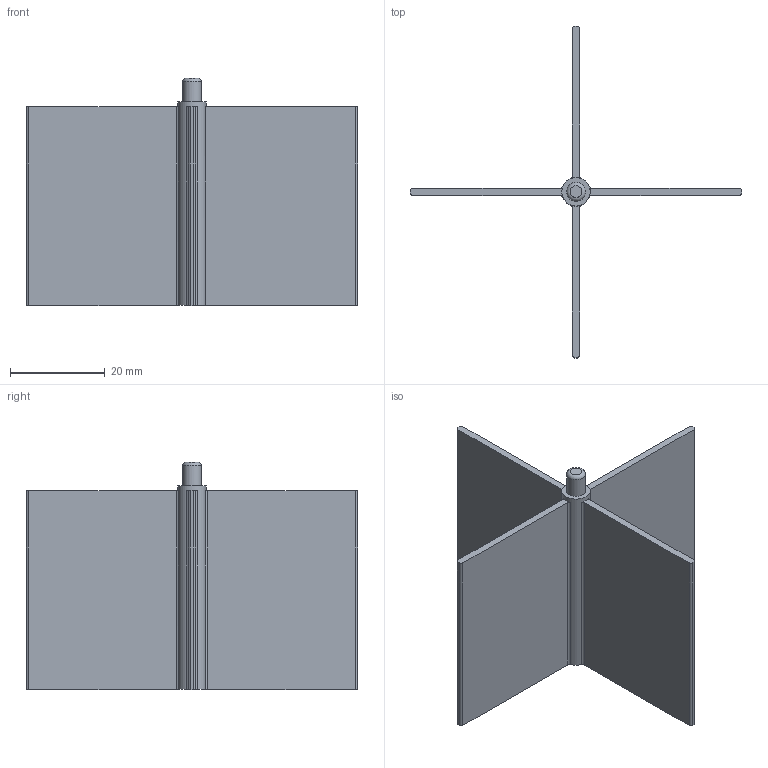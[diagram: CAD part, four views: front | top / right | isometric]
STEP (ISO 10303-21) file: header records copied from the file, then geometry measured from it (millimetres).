
FILE_DESCRIPTION(/* description */ ('STEP AP242','CAx-IF Rec.Pracs.---Representation and Presentation of Product Manufacturing Information (PMI)---4.0---2014-10-13','CAx-IF Rec.Pracs.---3D Tessellated Geometry---0.4---2014-09-14','2;1','CAx-IF Rec.Pracs.---User Defined Attributes---1.5---2016-08-15'),/* implementation_level */ '2;1');
FILE_NAME(/* name */ '69133feb89ea7250a0fac9b0',/* time_stamp */ '2025-11-11T13:53:48Z',/* author */ (''),/* organization */ (''),/* preprocessor_version */ 'ST-DEVELOPER v20',/* originating_system */ 'ONSHAPE BY PTC INC, 1.206',/* authorisation */ ' ');
FILE_SCHEMA (('AP242_MANAGED_MODEL_BASED_3D_ENGINEERING_MIM_LF { 1 0 10303 442 1 1 4 }'));
Length unit declared in the file: metre
Products named in the file (1): Part 1
Bounding box: 70 x 70 x 48 mm (x, y, z)
Volume: 9236.9 mm3; surface area: 12059.3 mm2
Topology: 1 solids, 1 shells, 44 faces, 122 edges, 81 vertices
Faces by surface type: plane 23, cylinder 18, cone 2, torus 1
Full cylindrical faces by diameter (mm): 4 x1, 5 x1, 6 x1
Entity records: 1391 total; most frequent: CARTESIAN_POINT 258, DIRECTION 243, ORIENTED_EDGE 224, EDGE_CURVE 112, AXIS2_PLACEMENT_3D 94, VERTEX_POINT 77, LINE 55, VECTOR 55
